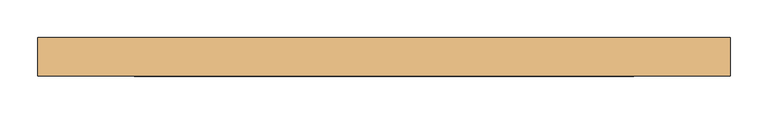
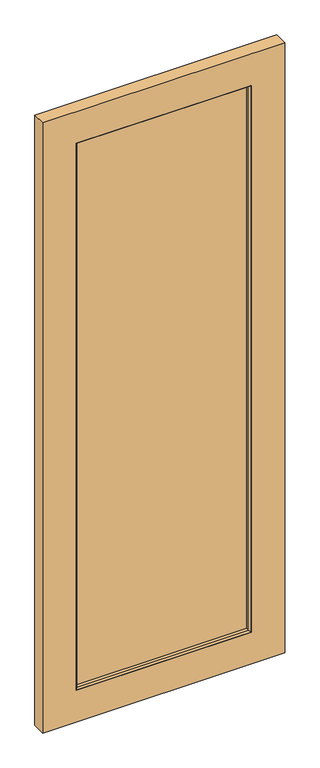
"""IFC4 building model written with IfcOpenShell, lengths in millimetres: door geometry, Planitar - Swap_Full Glass_Panel : Planitar - Swap_Full Glass_Panel."""

import ifcopenshell
import ifcopenshell.guid

model = None  # the IFC model being written
_history = None  # IfcOwnerHistory: only IFC2X3 demands one
_inside = {}  # id of a spatial element -> (the spatial element, [elements in it])
_under = {}  # id of a project, library or spatial element -> (it, [spatial elements below it])
_declared = {}  # id of a project -> (the project, [libraries it declares])
_typed = {}  # id of a type object -> (the type object, [elements of that type])
_made_of = {}  # id of a material, layer set ... -> (it, [elements and type objects made of it])


def new_model(schema):
    """Start an empty IFC model of exactly this schema.

    Asked for "IFC4X3", IfcOpenShell would pick the latest addendum, in which some entities
    have other attributes; the version numbers below select the first issue.
    IFC2X3 requires an IfcOwnerHistory on every rooted entity: one is made here for all.
    """
    global model, _history
    if schema == "IFC4X3":
        model = ifcopenshell.file(schema_version=(4, 3, 0, 0))
    else:
        model = ifcopenshell.file(schema=schema)
    _inside.clear()
    _under.clear()
    _declared.clear()
    _typed.clear()
    _made_of.clear()
    _history = None
    if model.schema == "IFC2X3":
        org = make("IfcOrganization", Name="unknown")
        user = make(
            "IfcPersonAndOrganization",
            ThePerson=make("IfcPerson", FamilyName="unknown"),
            TheOrganization=org,
        )
        app = make(
            "IfcApplication",
            ApplicationDeveloper=org,
            Version="unknown",
            ApplicationFullName="unknown",
            ApplicationIdentifier="unknown",
        )
        _history = make(
            "IfcOwnerHistory",
            OwningUser=user,
            OwningApplication=app,
            ChangeAction="ADDED",
            CreationDate=0,
        )
    return model


def make(cls, **values):
    """One entity of the class cls with the attributes given. An attribute that is None is left unset."""
    return model.create_entity(
        cls, **{name: value for name, value in values.items() if value is not None}
    )


def rooted(cls, **values):
    """An entity with a GlobalId (a new one), such as an element, a storey or a relation."""
    return make(cls, GlobalId=ifcopenshell.guid.new(), OwnerHistory=_history, **values)


def si_unit(unit_type, name, prefix=None):
    """IfcSIUnit, for example si_unit("LENGTHUNIT", "METRE", prefix="MILLI")."""
    return make("IfcSIUnit", UnitType=unit_type, Prefix=prefix, Name=name)


def assignment(units):
    """IfcUnitAssignment: the units of a project."""
    return None if units is None else make("IfcUnitAssignment", Units=units)


def point(xyz):
    """IfcCartesianPoint."""
    return None if xyz is None else make("IfcCartesianPoint", Coordinates=xyz)


def direction(xyz):
    """IfcDirection."""
    return None if xyz is None else make("IfcDirection", DirectionRatios=xyz)


def frame(location, z_axis=None, x_axis=None):
    """IfcAxis2Placement3D, a coordinate frame: its origin and axes. An axis left out is left unset."""
    return make(
        "IfcAxis2Placement3D",
        Location=point(location),
        Axis=direction(z_axis),
        RefDirection=direction(x_axis),
    )


def origin():
    """The frame at (0, 0, 0) with its axes left unset."""
    return frame((0.0, 0.0, 0.0))


def place(relative_to, where):
    """IfcLocalPlacement: puts the frame where relative to a parent placement (None: the world)."""
    return make(
        "IfcLocalPlacement", PlacementRelTo=relative_to, RelativePlacement=where
    )


def context(
    kind, dimensions, precision=None, world=None, true_north=None, identifier=None
):
    """IfcGeometricRepresentationContext, for example the 3D "Model" context."""
    return make(
        "IfcGeometricRepresentationContext",
        ContextIdentifier=identifier,
        ContextType=kind,
        CoordinateSpaceDimension=dimensions,
        Precision=precision,
        WorldCoordinateSystem=world,
        TrueNorth=true_north,
    )


def project(units=None, contexts=None):
    """IfcProject with its units and contexts."""
    return rooted(
        "IfcProject",
        Name="project",
        RepresentationContexts=contexts,
        UnitsInContext=assignment(units),
    )


def spatial(cls, under=None, at=None, **own):
    """A site, building, storey or space (cls), placed at a placement, below another one or the project."""
    s = rooted(cls, ObjectPlacement=at, **own)
    if under is not None:
        _under.setdefault(under.id(), (under, []))[1].append(s)
    return s


def polyline(points):
    """IfcPolyline through the points."""
    return make("IfcPolyline", Points=[point(p) for p in points])


def outline(outer, holes=None, kind="AREA"):
    """IfcArbitraryClosedProfileDef: a profile drawn as a closed curve; with holes, ...WithVoids."""
    if holes is None:
        return make("IfcArbitraryClosedProfileDef", ProfileType=kind, OuterCurve=outer)
    return make(
        "IfcArbitraryProfileDefWithVoids",
        ProfileType=kind,
        OuterCurve=outer,
        InnerCurves=holes,
    )


def extrude(swept, where, along, depth):
    """IfcExtrudedAreaSolid: the profile swept, set in the frame where, extruded along a direction by depth."""
    return make(
        "IfcExtrudedAreaSolid",
        SweptArea=swept,
        Position=where,
        ExtrudedDirection=direction(along),
        Depth=depth,
    )


def faces_of(points, faces, orient=None, outer=None):
    """IfcFace entities. A face is a list of loops; a loop is a list of indices into points, from 0.

    orient and outer hold one flag for each loop. By default every Orientation is true, the
    first loop of a face is its IfcFaceOuterBound and the others are IfcFaceBound.
    """
    made = []
    for i, loops in enumerate(faces):
        bounds = []
        for j, loop in enumerate(loops):
            is_outer = j == 0 if outer is None else outer[i][j]
            bounds.append(
                make(
                    "IfcFaceOuterBound" if is_outer else "IfcFaceBound",
                    Bound=make("IfcPolyLoop", Polygon=[points[k] for k in loop]),
                    Orientation=True if orient is None else orient[i][j],
                )
            )
        made.append(make("IfcFace", Bounds=bounds))
    return made


def faceted_brep(points, faces, orient=None, outer=None, voids=None):
    """IfcFacetedBrep: a solid bounded by flat faces; with voids (closed shells), ...WithVoids."""
    shared = [point(p) for p in points]
    hull = make("IfcClosedShell", CfsFaces=faces_of(shared, faces, orient, outer))
    if voids is None:
        return make("IfcFacetedBrep", Outer=hull)
    return make(
        "IfcFacetedBrepWithVoids",
        Outer=hull,
        Voids=[
            make(cls, CfsFaces=faces_of(shared, fs, o, b)) for cls, fs, o, b in voids
        ],
    )


def shape(context_of_items, identifier, shape_type, items):
    """IfcShapeRepresentation: the items that make up one representation, for example the "Body"."""
    return make(
        "IfcShapeRepresentation",
        ContextOfItems=context_of_items,
        RepresentationIdentifier=identifier,
        RepresentationType=shape_type,
        Items=items,
    )


def source(mapping_origin, context_of_items, identifier, shape_type, items):
    """IfcRepresentationMap: a shape defined once, which mapped items show again and again."""
    return make(
        "IfcRepresentationMap",
        MappingOrigin=mapping_origin,
        MappedRepresentation=shape(context_of_items, identifier, shape_type, items),
    )


def transform(
    local_origin,
    x_axis=None,
    y_axis=None,
    z_axis=None,
    scale=None,
    scale2=None,
    scale3=None,
    uniform=True,
):
    """IfcCartesianTransformationOperator3D, or its non-uniform kind. x_axis, y_axis, z_axis: its Axis1, 2, 3."""
    if uniform:
        return make(
            "IfcCartesianTransformationOperator3D",
            Axis1=direction(x_axis),
            Axis2=direction(y_axis),
            LocalOrigin=point(local_origin),
            Scale=scale,
            Axis3=direction(z_axis),
        )
    return make(
        "IfcCartesianTransformationOperator3DnonUniform",
        Axis1=direction(x_axis),
        Axis2=direction(y_axis),
        LocalOrigin=point(local_origin),
        Scale=scale,
        Axis3=direction(z_axis),
        Scale2=scale2,
        Scale3=scale3,
    )


def mapped(mapping_source, mapping_target):
    """IfcMappedItem: shows the shape of a source again, moved by a transform."""
    return make(
        "IfcMappedItem", MappingSource=mapping_source, MappingTarget=mapping_target
    )


def made_of(thing, what):
    """Note that an element or type object is made of a material, layer set ...; save() writes the relation."""
    if what is not None:
        _made_of.setdefault(what.id(), (what, []))[1].append(thing)
    return thing


def element(
    cls,
    number,
    at=None,
    inside=None,
    cuts=None,
    type_object=None,
    material=None,
    context=None,
    identifier="Body",
    shape_type=None,
    held_by="IfcProductDefinitionShape",
    body=None,
    shapes=None,
    **own,
):
    """One element of the class cls, such as IfcWall. Its Tag is "e" and its number.

    at: its placement. inside: the storey or other place that contains it. cuts: it is an
    opening in that element (IfcRelVoidsElement). A single representation is given by context,
    identifier, shape_type and body (its items); several are given by shapes. held_by: the class
    of the entity that holds the representations. save() writes the other relations.
    """
    e = rooted(cls, Tag="e%d" % number, ObjectPlacement=at, **own)
    if body is not None:
        shapes = [shape(context, identifier, shape_type, body)]
    if shapes is not None:
        e.Representation = make(held_by, Representations=shapes)
    if inside is not None:
        _inside.setdefault(inside.id(), (inside, []))[1].append(e)
    if cuts is not None:
        rooted(
            "IfcRelVoidsElement", RelatingBuildingElement=cuts, RelatedOpeningElement=e
        )
    if type_object is not None:
        _typed.setdefault(type_object.id(), (type_object, []))[1].append(e)
    return made_of(e, material)


def aggregate(whole, parts):
    """IfcRelAggregates: a whole, such as a stair, and the parts it consists of."""
    return rooted("IfcRelAggregates", RelatingObject=whole, RelatedObjects=parts)


def save(model, path):
    """Write the relations noted so far, then the file.

    IfcRelAggregates (storeys below a building ...), IfcRelContainedInSpatialStructure (elements
    in a storey), IfcRelDefinesByType, IfcRelAssociatesMaterial and IfcRelDeclares: one each for
    every whole, place, type object, material and project.
    """
    for whole, parts in _under.values():
        aggregate(whole, parts)
    for where, things in _inside.values():
        rooted(
            "IfcRelContainedInSpatialStructure",
            RelatedElements=things,
            RelatingStructure=where,
        )
    for kind, things in _typed.values():
        rooted("IfcRelDefinesByType", RelatedObjects=things, RelatingType=kind)
    for what, things in _made_of.values():
        rooted("IfcRelAssociatesMaterial", RelatedObjects=things, RelatingMaterial=what)
    for by, libraries in _declared.values():
        rooted("IfcRelDeclares", RelatingContext=by, RelatedDefinitions=libraries)
    model.write(path)


def door_f5256737(model_context):
    return source(origin(), model_context, "Body", "SolidModel", [
        extrude(outline(polyline([(2438.4, 457.2), (2438.4, -457.2), (0.0, -457.2), (0.0, 457.2), (2438.4, 457.2)]), holes=[polyline([(127.0, 330.2), (127.0, -330.2), (2311.4, -330.2), (2311.4, 330.2), (127.0, 330.2)])]), frame((0.0, -25.4, 0.0), z_axis=(0.0, 1.0, 0.0), x_axis=(0.0, 0.0, 1.0)), (0.0, 0.0, 1.0), 50.8),
        extrude(outline(polyline([(323.85, -6.35), (-323.85, -6.35), (-323.85, 6.35), (323.85, 6.35), (323.85, -6.35)])), frame((0.0, 0.0, 133.35), z_axis=(0.0, 0.0, 1.0), x_axis=(1.0, 0.0, 0.0)), (0.0, 0.0, 1.0), 2171.7),
        faceted_brep([(323.85, 19.05, 133.35), (330.2, 25.4, 127.0), (-330.2, 25.4, 127.0), (-323.85, 19.05, 133.35), (-330.2, 25.4, 2311.4), (-323.85, 19.05, 2305.05), (-330.2, -25.4, 127.0), (-330.2, -25.4, 2311.4), (-323.85, -19.05, 2305.05), (-323.85, -19.05, 133.35), (323.85, -19.05, 133.35), (330.2, -25.4, 127.0), (323.85, 19.05, 2305.05), (330.2, 25.4, 2311.4), (330.2, -25.4, 2311.4), (323.85, -19.05, 2305.05)], [[[0, 1, 2, 3]], [[3, 2, 4, 5]], [[2, 6, 7, 4]], [[3, 5, 8, 9]], [[6, 9, 8, 7]], [[10, 0, 3, 9]], [[11, 10, 9, 6]], [[1, 11, 6, 2]], [[12, 13, 1, 0]], [[13, 14, 11, 1]], [[15, 12, 0, 10]], [[14, 15, 10, 11]], [[5, 4, 13, 12]], [[8, 5, 12, 15]], [[7, 8, 15, 14]], [[4, 7, 14, 13]]]),
    ])


if __name__ == "__main__":
    model = new_model("IFC4")
    model_context = context("Model", 3, world=origin())
    ifc_project = project(units=[si_unit("LENGTHUNIT", "METRE", prefix="MILLI")], contexts=[model_context])
    site = spatial("IfcSite", under=ifc_project)
    building = spatial("IfcBuilding", under=site)
    placement = place(None, origin())
    door_shape = door_f5256737(model_context)
    element("IfcDoor", 1, ObjectType="Planitar - Swap_Full Glass_Panel : Planitar - Swap_Full Glass_Panel", at=placement, inside=building, context=model_context, shape_type="MappedRepresentation", body=[
        mapped(door_shape, transform((0.0, 0.0, 0.0), x_axis=(1.0, 0.0, 0.0), y_axis=(0.0, 1.0, 0.0), z_axis=(0.0, 0.0, 1.0))),
    ])
    save(model, "model.ifc")
